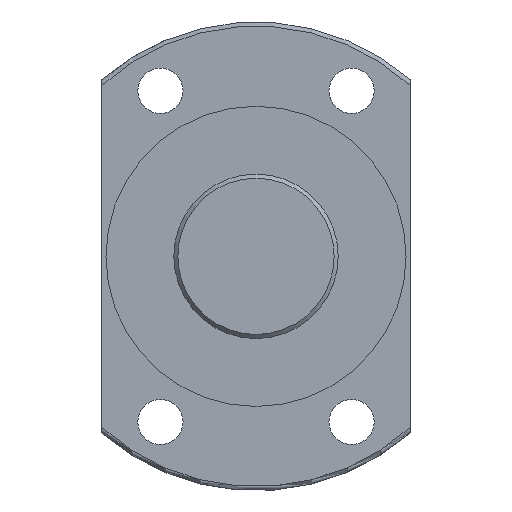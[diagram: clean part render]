
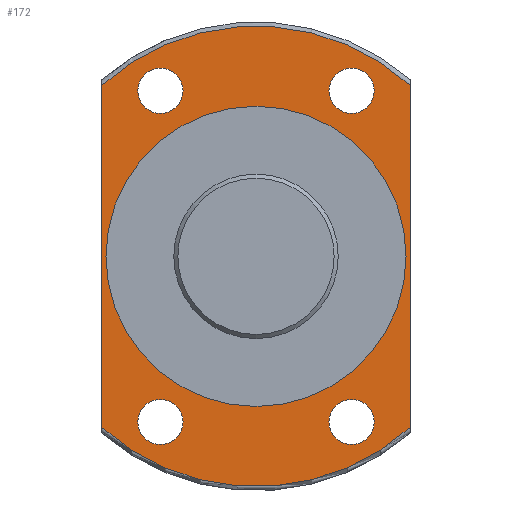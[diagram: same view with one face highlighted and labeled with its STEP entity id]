
A CAD part, left-side view. The second image highlights one B-rep face of the part: STEP entity #172.
In plain terms, the highlighted planar face has unit normal (-1, 0, 0).
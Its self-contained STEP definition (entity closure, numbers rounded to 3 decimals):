
#57 = EDGE_CURVE ( 'NONE', #931, #931, #785, .T. ) ;
#76 = VERTEX_POINT ( 'NONE', #1778 ) ;
#172 = ADVANCED_FACE ( 'NONE', ( #2229, #1828, #552, #2009, #762, #734 ), #939, .T. ) ;
#250 = CIRCLE ( 'NONE', #1803, 56. ) ;
#270 = CARTESIAN_POINT ( 'NONE',  ( 54.446, 51.197, 0. ) ) ;
#296 = VECTOR ( 'NONE', #417, 1000. ) ;
#300 = CARTESIAN_POINT ( 'NONE',  ( 54.446, 107.197, 0. ) ) ;
#310 = EDGE_LOOP ( 'NONE', ( #653 ) ) ;
#409 = EDGE_CURVE ( 'NONE', #76, #76, #876, .T. ) ;
#417 = DIRECTION ( 'NONE',  ( 0., 0., 1. ) ) ;
#462 = EDGE_CURVE ( 'NONE', #2444, #2444, #1670, .T. ) ;
#466 = ORIENTED_EDGE ( 'NONE', *, *, #2570, .F. ) ;
#483 = ORIENTED_EDGE ( 'NONE', *, *, #1247, .T. ) ;
#552 = FACE_BOUND ( 'NONE', #2517, .T. ) ;
#572 = VERTEX_POINT ( 'NONE', #2484 ) ;
#587 = CARTESIAN_POINT ( 'NONE',  ( 54.446, 74.447, -40.27 ) ) ;
#634 = ORIENTED_EDGE ( 'NONE', *, *, #659, .F. ) ;
#653 = ORIENTED_EDGE ( 'NONE', *, *, #57, .F. ) ;
#659 = EDGE_CURVE ( 'NONE', #1913, #2132, #2026, .T. ) ;
#661 = DIRECTION ( 'NONE',  ( -1., 0., 0. ) ) ;
#729 = CARTESIAN_POINT ( 'NONE',  ( 54.446, 13.697, -41.59 ) ) ;
#734 = FACE_OUTER_BOUND ( 'NONE', #1440, .T. ) ;
#762 = FACE_BOUND ( 'NONE', #1152, .T. ) ;
#785 = CIRCLE ( 'NONE', #1330, 5.5 ) ;
#826 = DIRECTION ( 'NONE',  ( -1., 0., 0. ) ) ;
#831 = EDGE_CURVE ( 'NONE', #2175, #2548, #250, .T. ) ;
#848 = CARTESIAN_POINT ( 'NONE',  ( 54.446, 88.697, 0. ) ) ;
#876 = CIRCLE ( 'NONE', #1945, 5.5 ) ;
#931 = VERTEX_POINT ( 'NONE', #2400 ) ;
#939 = PLANE ( 'NONE',  #1126 ) ;
#968 = CARTESIAN_POINT ( 'NONE',  ( 54.446, 27.947, 40.27 ) ) ;
#1016 = CARTESIAN_POINT ( 'NONE',  ( 54.446, 22.447, -40.27 ) ) ;
#1046 = DIRECTION ( 'NONE',  ( 0., -1., 0. ) ) ;
#1055 = AXIS2_PLACEMENT_3D ( 'NONE', #2120, #2315, #2576 ) ;
#1067 = ORIENTED_EDGE ( 'NONE', *, *, #2429, .F. ) ;
#1126 = AXIS2_PLACEMENT_3D ( 'NONE', #300, #1814, #1984 ) ;
#1132 = CARTESIAN_POINT ( 'NONE',  ( 54.446, 27.947, -40.27 ) ) ;
#1138 = DIRECTION ( 'NONE',  ( 0., 1., 0. ) ) ;
#1142 = EDGE_LOOP ( 'NONE', ( #1550 ) ) ;
#1152 = EDGE_LOOP ( 'NONE', ( #1758 ) ) ;
#1168 = DIRECTION ( 'NONE',  ( 1., 0., 0. ) ) ;
#1209 = CARTESIAN_POINT ( 'NONE',  ( 54.446, 51.197, 0. ) ) ;
#1216 = LINE ( 'NONE', #2056, #1232 ) ;
#1232 = VECTOR ( 'NONE', #1655, 1000. ) ;
#1247 = EDGE_CURVE ( 'NONE', #1913, #2548, #1216, .T. ) ;
#1330 = AXIS2_PLACEMENT_3D ( 'NONE', #968, #2422, #1997 ) ;
#1377 = CARTESIAN_POINT ( 'NONE',  ( 54.446, 14.697, 0. ) ) ;
#1440 = EDGE_LOOP ( 'NONE', ( #2593, #634, #483, #1463 ) ) ;
#1463 = ORIENTED_EDGE ( 'NONE', *, *, #831, .F. ) ;
#1492 = EDGE_CURVE ( 'NONE', #2132, #2175, #1682, .T. ) ;
#1550 = ORIENTED_EDGE ( 'NONE', *, *, #462, .T. ) ;
#1631 = CIRCLE ( 'NONE', #2740, 5.5 ) ;
#1655 = DIRECTION ( 'NONE',  ( 0., 0., 1. ) ) ;
#1670 = CIRCLE ( 'NONE', #2247, 36.5 ) ;
#1682 = LINE ( 'NONE', #848, #296 ) ;
#1730 = EDGE_LOOP ( 'NONE', ( #1067 ) ) ;
#1758 = ORIENTED_EDGE ( 'NONE', *, *, #409, .F. ) ;
#1778 = CARTESIAN_POINT ( 'NONE',  ( 54.446, 68.947, 40.27 ) ) ;
#1803 = AXIS2_PLACEMENT_3D ( 'NONE', #270, #1168, #1138 ) ;
#1814 = DIRECTION ( 'NONE',  ( -1., 0., 0. ) ) ;
#1828 = FACE_BOUND ( 'NONE', #1730, .T. ) ;
#1845 = VERTEX_POINT ( 'NONE', #1016 ) ;
#1913 = VERTEX_POINT ( 'NONE', #729 ) ;
#1938 = DIRECTION ( 'NONE',  ( 0., -1., 0. ) ) ;
#1945 = AXIS2_PLACEMENT_3D ( 'NONE', #2715, #826, #2260 ) ;
#1984 = DIRECTION ( 'NONE',  ( 0., 1., 0. ) ) ;
#1997 = DIRECTION ( 'NONE',  ( 0., -1., 0. ) ) ;
#2009 = FACE_BOUND ( 'NONE', #310, .T. ) ;
#2026 = CIRCLE ( 'NONE', #1055, 56. ) ;
#2056 = CARTESIAN_POINT ( 'NONE',  ( 54.446, 13.697, 0. ) ) ;
#2091 = DIRECTION ( 'NONE',  ( 0., -1., 0. ) ) ;
#2098 = DIRECTION ( 'NONE',  ( -1., 0., 0. ) ) ;
#2104 = DIRECTION ( 'NONE',  ( 1., 0., 0. ) ) ;
#2120 = CARTESIAN_POINT ( 'NONE',  ( 54.446, 51.197, 0. ) ) ;
#2132 = VERTEX_POINT ( 'NONE', #2723 ) ;
#2175 = VERTEX_POINT ( 'NONE', #2267 ) ;
#2203 = CIRCLE ( 'NONE', #2650, 5.5 ) ;
#2229 = FACE_BOUND ( 'NONE', #1142, .T. ) ;
#2247 = AXIS2_PLACEMENT_3D ( 'NONE', #1209, #2104, #2091 ) ;
#2260 = DIRECTION ( 'NONE',  ( 0., -1., 0. ) ) ;
#2267 = CARTESIAN_POINT ( 'NONE',  ( 54.446, 88.697, 41.59 ) ) ;
#2315 = DIRECTION ( 'NONE',  ( 1., 0., 0. ) ) ;
#2363 = CARTESIAN_POINT ( 'NONE',  ( 54.446, 13.697, 41.59 ) ) ;
#2400 = CARTESIAN_POINT ( 'NONE',  ( 54.446, 22.447, 40.27 ) ) ;
#2422 = DIRECTION ( 'NONE',  ( -1., 0., 0. ) ) ;
#2429 = EDGE_CURVE ( 'NONE', #572, #572, #1631, .T. ) ;
#2444 = VERTEX_POINT ( 'NONE', #1377 ) ;
#2484 = CARTESIAN_POINT ( 'NONE',  ( 54.446, 68.947, -40.27 ) ) ;
#2517 = EDGE_LOOP ( 'NONE', ( #466 ) ) ;
#2548 = VERTEX_POINT ( 'NONE', #2363 ) ;
#2570 = EDGE_CURVE ( 'NONE', #1845, #1845, #2203, .T. ) ;
#2576 = DIRECTION ( 'NONE',  ( 0., 1., 0. ) ) ;
#2593 = ORIENTED_EDGE ( 'NONE', *, *, #1492, .F. ) ;
#2650 = AXIS2_PLACEMENT_3D ( 'NONE', #1132, #661, #1938 ) ;
#2715 = CARTESIAN_POINT ( 'NONE',  ( 54.446, 74.447, 40.27 ) ) ;
#2723 = CARTESIAN_POINT ( 'NONE',  ( 54.446, 88.697, -41.59 ) ) ;
#2740 = AXIS2_PLACEMENT_3D ( 'NONE', #587, #2098, #1046 ) ;
